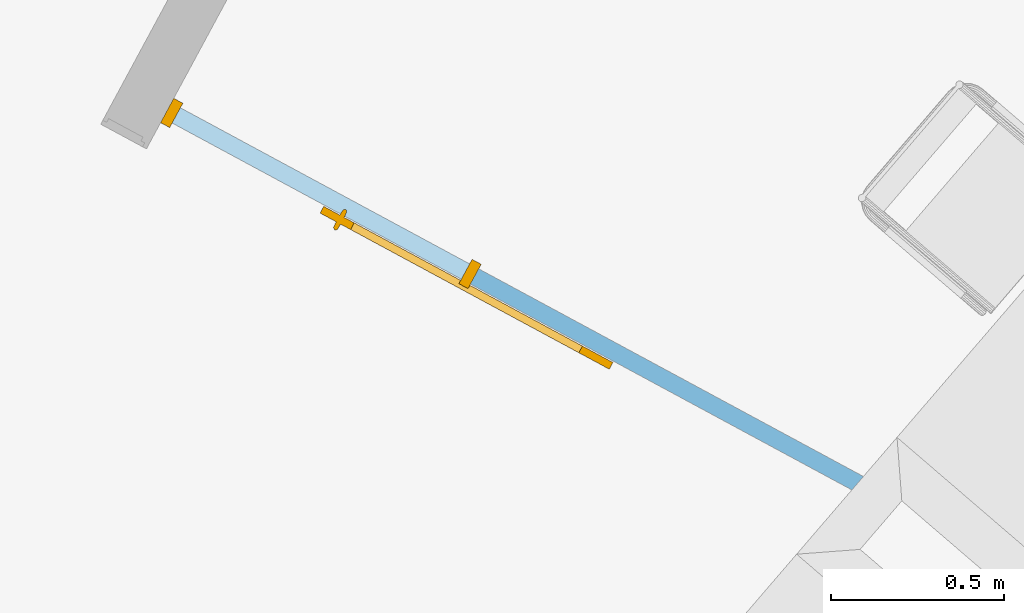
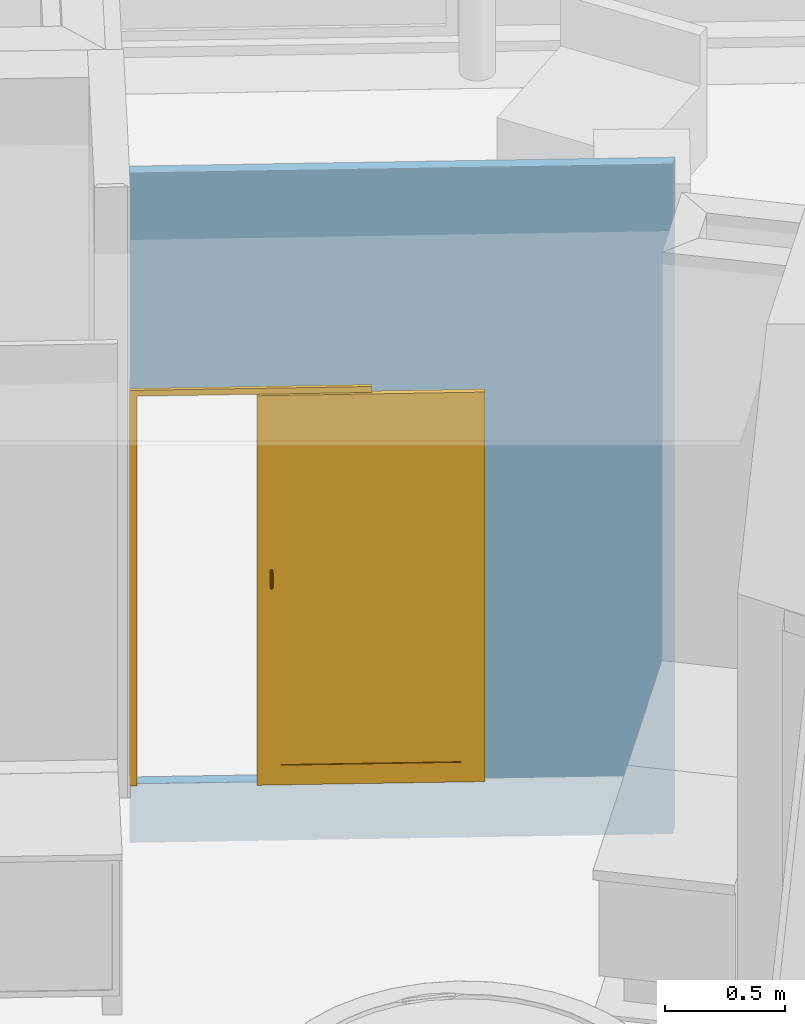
# One storey, part 9 of 41: 1 door, 1 opening, plus 1 element that does not belong to this part.
"""IFC2X3 building model written with IfcOpenShell, lengths in metres."""

from ifc_helpers import new_model, entity, si_unit, converted_unit, derived_unit, money_unit, direction, frame, origin_with_axes, place, context, subcontext, project, spatial, polyline, outline, extrude, open_shell, faceted_brep, surface_model, material, layer, layer_set, layer_usage, type_object, element, fill, save


model = new_model("IFC2X3")

# Units and contexts
model_context = context("Model", 3, precision=1e-05, world=origin_with_axes(), true_north=direction((0.0, 1.0)))
body_context = subcontext(model_context, "Body", "Model", "MODEL_VIEW")
ifc_project = project(units=[si_unit("LENGTHUNIT", "METRE"), si_unit("AREAUNIT", "SQUARE_METRE"), si_unit("VOLUMEUNIT", "CUBIC_METRE"), converted_unit("PLANEANGLEUNIT", "DEGREE", entity("IfcPlaneAngleMeasure", 0.0174532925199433), si_unit("PLANEANGLEUNIT", "RADIAN"), dimensions=[0, 0, 0, 0, 0, 0, 0]), money_unit("EUR"), converted_unit("TIMEUNIT", "Year", entity("IfcTimeMeasure", 31556926.0), si_unit("TIMEUNIT", "SECOND"), dimensions=[0, 0, 1, 0, 0, 0, 0]), si_unit("MASSUNIT", "GRAM", prefix="KILO"), si_unit("THERMODYNAMICTEMPERATUREUNIT", "DEGREE_CELSIUS"), si_unit("LUMINOUSINTENSITYUNIT", "LUMEN"), si_unit("ENERGYUNIT", "JOULE", prefix="MEGA"), derived_unit("THERMALCONDUCTANCEUNIT", [(si_unit("POWERUNIT", "WATT"), 1), (si_unit("LENGTHUNIT", "METRE"), -1), (si_unit("THERMODYNAMICTEMPERATUREUNIT", "KELVIN"), -1)]), derived_unit("SPECIFICHEATCAPACITYUNIT", [(si_unit("ENERGYUNIT", "JOULE"), 1), (si_unit("MASSUNIT", "GRAM", prefix="KILO"), -1), (si_unit("THERMODYNAMICTEMPERATUREUNIT", "KELVIN"), -1)]), derived_unit("MASSDENSITYUNIT", [(si_unit("MASSUNIT", "GRAM", prefix="KILO"), 1), (si_unit("VOLUMEUNIT", "CUBIC_METRE"), -1)])], contexts=[model_context])

# Site, building, storey
site_placement = place(None, frame((-3.949935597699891, 1.740105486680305, 0.0), z_axis=(0.0, 0.0, 1.0), x_axis=(0.8799804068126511, -0.475009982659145, 0.0)))
site = spatial("IfcSite", under=ifc_project, at=site_placement, Name="Gelände", CompositionType="ELEMENT")
building_placement = place(site_placement, origin_with_axes())
building = spatial("IfcBuilding", under=site, at=building_placement, Name="Gebäude", CompositionType="ELEMENT")
storey_placement = place(building_placement, frame((0.0, 0.0, 4.55), z_axis=(0.0, 0.0, 1.0), x_axis=(1.0, 0.0, 0.0)))
storey = spatial("IfcBuildingStorey", under=building, at=storey_placement, Name="Staffelgeschoss", CompositionType="ELEMENT", Elevation=4.55)

# Wall, opening, door
ifc_material = material(Name="ALLGEMEIN - BAUTEIL")
ifc_layer = layer(ifc_material, 0.05, ventilated="UNKNOWN")
ifc_layer_set = layer_set([ifc_layer], Name="ALLGEMEIN - BAUTEIL 0.05")
ifc_layer_usage = layer_usage(ifc_layer_set, "AXIS2", "NEGATIVE", 0.0)
wall_type = type_object("IfcWallType", Name="ALLGEMEIN - BAUTEIL 50", PredefinedType="NOTDEFINED")
wall_placement = place(storey_placement, frame((26.00538265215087, 5.653154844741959, -0.2999999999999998), z_axis=(0.0, 0.0, 1.0), x_axis=(-0.9999999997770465, -2.111651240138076e-05, 0.0)))
wall = element("IfcWallStandardCase", 1, at=wall_placement, inside=storey, type_object=wall_type, material=ifc_layer_usage, Name="I-Wand035", ObjectType="NOTDEFINED", context=body_context, shape_type="SweptSolid", body=[
    extrude(outline(polyline([(-0.01092152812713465, -0.04999999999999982), (2.262848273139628, -0.04999999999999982), (2.262849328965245, 0.0), (0.0, 0.0), (-0.01092152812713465, -0.04999999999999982)])), origin_with_axes(), (0.0, 0.0, 1.0), 3.404999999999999),
])
opening_placement = place(wall_placement, frame((1.757847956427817, 0.0, 0.2999999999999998), z_axis=(0.0, 0.0, 1.0), x_axis=(1.0, 0.0, 0.0)))
opening = element("IfcOpeningElement", 2, at=opening_placement, cuts=wall, Name="I-Wand057", context=body_context, shape_type="Brep", body=[
    faceted_brep([(-0.504999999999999, 0.001047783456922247, 1.98), (-0.504999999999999, 0.0, 1.98), (-0.504999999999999, 0.0, 0.0), (-0.5049999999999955, -0.05104778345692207, 0.0), (-0.5049999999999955, -0.05104778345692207, 2.01), (-0.504999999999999, 0.001047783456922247, 2.01), (-0.5049999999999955, 0.03000000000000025, 1.98), (-1.514999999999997, 0.03000000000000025, 1.98), (-1.514999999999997, 0.0, 1.98), (-1.514999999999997, 0.0, 0.0), (-0.504999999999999, 0.001047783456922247, 0.0), (0.5050000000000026, 0.001047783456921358, 0.0), (0.5050000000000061, -0.05104778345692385, 0.0), (0.5050000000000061, -0.05104778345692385, 2.01), (0.5050000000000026, 0.001047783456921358, 2.01), (-0.5049999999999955, 0.03000000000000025, 0.0), (-1.514999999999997, 0.03000000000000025, 0.0)], [[[0, 1, 2, 3, 4, 5]], [[1, 0, 6, 7, 8]], [[2, 1, 8, 9]], [[2, 10, 11, 12, 3]], [[3, 12, 13, 4]], [[4, 13, 14, 5]], [[10, 0, 5, 14, 11]], [[0, 10, 15, 6]], [[7, 6, 15, 16]], [[8, 7, 16, 9]], [[10, 2, 9, 16, 15]], [[13, 12, 11, 14]]]),
])
door_style = type_object("IfcDoorStyle", Name="Schiebetür 02 1 22", ConstructionType="NOTDEFINED", OperationType="SLIDING_TO_LEFT", ParameterTakesPrecedence=False, Sizeable=False)
door_placement = place(opening_placement, frame((0.5050000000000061, 0.0, 0.0), z_axis=(0.0, 0.0, 1.0), x_axis=(-1.0, 0.0, 0.0)))
door = element("IfcDoor", 3, at=door_placement, inside=storey, type_object=door_style, Name="I-Wand057", ObjectType="DOOR", OverallHeight=2.01, OverallWidth=1.01, context=body_context, shape_type="SurfaceModel", body=[
    faceted_brep([(1.010000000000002, 0.0649999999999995, 0.0), (1.010000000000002, 0.04999999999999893, 0.0), (0.980000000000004, 0.04999999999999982, 0.0), (0.9800000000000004, 0.0649999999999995, 0.0), (1.010000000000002, 0.0649999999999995, 2.01), (1.010000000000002, 0.04999999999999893, 2.01), (0.0, 0.05000000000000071, 2.01), (0.0, 0.05000000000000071, 0.0), (0.03000000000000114, 0.05000000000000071, 0.0), (0.03000000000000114, 0.05000000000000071, 1.98), (0.980000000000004, 0.04999999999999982, 1.98), (0.9800000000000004, 0.0649999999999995, 1.98), (0.03000000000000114, 0.0649999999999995, 1.98), (0.03000000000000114, 0.0649999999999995, 0.0), (0.0, 0.06500000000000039, 0.0), (0.0, 0.06500000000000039, 2.01)], [[[0, 1, 2, 3]], [[4, 5, 1, 0]], [[1, 5, 6, 7, 8, 9, 10, 2]], [[3, 2, 10, 11]], [[0, 3, 11, 12, 13, 14, 15, 4]], [[15, 6, 5, 4]], [[14, 7, 6, 15]], [[13, 8, 7, 14]], [[12, 9, 8, 13]], [[11, 10, 9, 12]]]),
    faceted_brep([(1.010000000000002, 0.04999999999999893, 0.0), (1.010000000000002, 0.0, 0.0), (0.9799999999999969, 0.0, 0.0), (0.980000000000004, 0.04999999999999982, 0.0), (1.010000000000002, 0.04999999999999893, 2.01), (1.010000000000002, 0.0, 2.01), (0.0, 0.0, 2.01), (0.0, 0.0, 0.0), (0.03000000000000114, 0.0, 0.0), (0.03000000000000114, 0.0, 1.98), (0.9799999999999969, 0.0, 1.98), (0.980000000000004, 0.04999999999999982, 1.98), (0.03000000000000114, 0.05000000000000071, 1.98), (0.03000000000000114, 0.05000000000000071, 0.0), (0.0, 0.05000000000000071, 0.0), (0.0, 0.05000000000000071, 2.01)], [[[0, 1, 2, 3]], [[4, 5, 1, 0]], [[1, 5, 6, 7, 8, 9, 10, 2]], [[3, 2, 10, 11]], [[0, 3, 11, 12, 13, 14, 15, 4]], [[15, 6, 5, 4]], [[14, 7, 6, 15]], [[13, 8, 7, 14]], [[12, 9, 8, 13]], [[11, 10, 9, 12]]]),
    faceted_brep([(1.010000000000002, 0.0, 0.0), (1.010000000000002, -0.01500000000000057, 0.0), (0.9800000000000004, -0.01500000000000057, 0.0), (0.9799999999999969, 0.0, 0.0), (1.010000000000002, 0.0, 2.01), (1.010000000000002, -0.01500000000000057, 2.01), (0.0, -0.01499999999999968, 2.01), (0.0, -0.01499999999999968, 0.0), (0.03000000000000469, -0.01499999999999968, 0.0), (0.03000000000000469, -0.01499999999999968, 1.98), (0.9800000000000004, -0.01500000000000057, 1.98), (0.9799999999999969, 0.0, 1.98), (0.03000000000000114, 0.0, 1.98), (0.03000000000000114, 0.0, 0.0), (0.0, 0.0, 0.0), (0.0, 0.0, 2.01)], [[[0, 1, 2, 3]], [[4, 5, 1, 0]], [[1, 5, 6, 7, 8, 9, 10, 2]], [[3, 2, 10, 11]], [[0, 3, 11, 12, 13, 14, 15, 4]], [[15, 6, 5, 4]], [[14, 7, 6, 15]], [[13, 8, 7, 14]], [[12, 9, 8, 13]], [[11, 10, 9, 12]]]),
    faceted_brep([(1.479949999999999, -0.004000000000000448, 0.09999999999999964), (1.479950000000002, -0.0259999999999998, 0.09999999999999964), (1.379950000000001, -0.02600000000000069, 0.09999999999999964), (1.379949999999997, -0.004000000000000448, 0.09999999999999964), (1.479949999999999, -0.004000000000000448, 1.8799), (1.479950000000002, -0.0259999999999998, 1.8799), (1.379950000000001, -0.02600000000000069, 1.8799), (1.379949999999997, -0.004000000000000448, 1.8799)], [[[0, 1, 2, 3]], [[4, 5, 1, 0]], [[1, 5, 6, 2]], [[3, 2, 6, 7]], [[0, 3, 7, 4]], [[7, 6, 5, 4]]]),
    faceted_brep([(0.5300499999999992, -0.004000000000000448, 1.8799), (0.5300499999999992, -0.0259999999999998, 1.8799), (0.6300500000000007, -0.02600000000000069, 1.8799), (0.6300500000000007, -0.003999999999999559, 1.8799), (0.5300499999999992, -0.004000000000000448, 0.09999999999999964), (0.5300499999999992, -0.0259999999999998, 0.09999999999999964), (0.6300500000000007, -0.02600000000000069, 0.09999999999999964), (0.6300500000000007, -0.003999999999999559, 0.09999999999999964)], [[[0, 1, 2, 3]], [[4, 5, 1, 0]], [[1, 5, 6, 2]], [[3, 2, 6, 7]], [[0, 3, 7, 4]], [[7, 6, 5, 4]]]),
    faceted_brep([(0.5300499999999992, -0.004000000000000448, 0.0), (0.5300499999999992, -0.0259999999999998, 0.0), (0.5300499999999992, -0.0259999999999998, 0.09999999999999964), (0.5300499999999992, -0.004000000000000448, 0.09999999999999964), (1.479949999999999, -0.004000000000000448, 0.0), (1.479950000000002, -0.0259999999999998, 0.0), (1.479950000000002, -0.0259999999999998, 0.09999999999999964), (1.379950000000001, -0.02600000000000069, 0.09999999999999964), (0.6300500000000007, -0.02600000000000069, 0.09999999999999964), (0.6300500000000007, -0.003999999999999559, 0.09999999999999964), (1.379949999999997, -0.004000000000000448, 0.09999999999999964), (1.479949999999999, -0.004000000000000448, 0.09999999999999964)], [[[0, 1, 2, 3]], [[4, 5, 1, 0]], [[1, 5, 6, 7, 8, 2]], [[3, 2, 8, 9]], [[0, 3, 9, 10, 11, 4]], [[11, 6, 5, 4]], [[10, 7, 6, 11]], [[9, 8, 7, 10]]]),
    faceted_brep([(1.479949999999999, -0.004000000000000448, 1.9799), (1.479950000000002, -0.0259999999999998, 1.9799), (1.479950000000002, -0.0259999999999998, 1.8799), (1.479949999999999, -0.004000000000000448, 1.8799), (0.5300499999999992, -0.004000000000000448, 1.9799), (0.5300499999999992, -0.0259999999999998, 1.9799), (0.5300499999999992, -0.0259999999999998, 1.8799), (0.6300500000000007, -0.02600000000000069, 1.8799), (1.379950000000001, -0.02600000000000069, 1.8799), (1.379949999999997, -0.004000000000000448, 1.8799), (0.6300500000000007, -0.003999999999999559, 1.8799), (0.5300499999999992, -0.004000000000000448, 1.8799)], [[[0, 1, 2, 3]], [[4, 5, 1, 0]], [[1, 5, 6, 7, 8, 2]], [[3, 2, 8, 9]], [[0, 3, 9, 10, 11, 4]], [[11, 6, 5, 4]], [[10, 7, 6, 11]], [[9, 8, 7, 10]]]),
    surface_model("IfcShellBasedSurfaceModel", [(1.379950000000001, -0.009000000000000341, 0.09999999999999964), (0.6300500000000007, -0.008999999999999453, 0.09999999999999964), (0.6300500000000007, -0.008999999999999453, 1.8799), (1.379950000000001, -0.009000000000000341, 1.8799)], [open_shell([[[0, 1, 2, 3]]])]),
    surface_model("IfcShellBasedSurfaceModel", [(1.379950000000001, -0.0210000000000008, 0.09999999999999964), (1.379950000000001, -0.0210000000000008, 1.8799), (0.6300500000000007, -0.0210000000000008, 1.8799), (0.6300500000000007, -0.0210000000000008, 0.09999999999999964)], [open_shell([[[0, 1, 2, 3]]])]),
    faceted_brep([(0.5970499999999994, -0.04099999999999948, 1.085980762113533), (0.597050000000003, -0.02600000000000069, 1.09), (0.5961121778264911, -0.02600000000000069, 1.0935), (0.5961121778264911, -0.04274999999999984, 1.089011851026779), (0.5961121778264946, -0.03925000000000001, 1.082949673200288), (0.5961121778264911, -0.02600000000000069, 1.0865), (0.5935499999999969, -0.02600000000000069, 1.083937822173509), (0.590049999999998, -0.0259999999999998, 1.083), (0.5865500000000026, -0.02600000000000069, 1.083937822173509), (0.5839878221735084, -0.02600000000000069, 1.0865), (0.5830500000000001, -0.0259999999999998, 1.09), (0.5839878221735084, -0.02600000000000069, 1.0935), (0.5865500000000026, -0.02600000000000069, 1.096062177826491), (0.590049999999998, -0.0259999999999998, 1.097), (0.5935499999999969, -0.02600000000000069, 1.096062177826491), (0.5935500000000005, -0.04403108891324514, 1.091230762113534), (0.597050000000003, -0.05198076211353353, 1.075), (0.5961121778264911, -0.0550118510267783, 1.07675), (0.5935500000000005, -0.03796891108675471, 1.080730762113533), (0.5961121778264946, -0.04894967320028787, 1.07325), (0.5900500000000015, -0.03750000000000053, 1.079918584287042), (0.5865500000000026, -0.03796891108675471, 1.080730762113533), (0.583987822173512, -0.03925000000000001, 1.082949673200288), (0.5830500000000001, -0.04100000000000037, 1.085980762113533), (0.5839878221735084, -0.04275000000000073, 1.089011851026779), (0.5865500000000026, -0.04403108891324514, 1.091230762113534), (0.590049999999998, -0.04450000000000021, 1.092042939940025), (0.5935500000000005, -0.05723076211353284, 1.078031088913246), (0.597050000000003, -0.05600000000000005, 1.06), (0.5961121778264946, -0.05949999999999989, 1.06), (0.5935500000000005, -0.04673076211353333, 1.071968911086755), (0.5961121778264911, -0.05249999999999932, 1.06), (0.5900500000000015, -0.04591858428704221, 1.0715), (0.586549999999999, -0.04673076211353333, 1.071968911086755), (0.5839878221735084, -0.04894967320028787, 1.07325), (0.5830499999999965, -0.05198076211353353, 1.075), (0.5839878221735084, -0.05501185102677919, 1.07675), (0.5865500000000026, -0.05723076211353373, 1.078031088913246), (0.590049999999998, -0.05804293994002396, 1.0785), (0.5935500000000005, -0.06206217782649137, 1.06), (0.590049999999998, -0.06300000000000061, 1.06), (0.5865500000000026, -0.06206217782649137, 1.06), (0.5839878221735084, -0.05949999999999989, 1.06), (0.5830500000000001, -0.05600000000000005, 1.06), (0.5839878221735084, -0.05250000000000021, 1.06), (0.5865500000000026, -0.04993782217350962, 1.06), (0.5900500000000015, -0.04899999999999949, 1.06), (0.5935499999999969, -0.04993782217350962, 1.06)], [[[0, 1, 2, 3]], [[4, 5, 1, 0]], [[1, 5, 6, 7, 8, 9, 10, 11, 12, 13, 14, 2]], [[3, 2, 14, 15]], [[16, 0, 3, 17]], [[18, 6, 5, 4]], [[19, 4, 0, 16]], [[20, 7, 6, 18]], [[21, 8, 7, 20]], [[22, 9, 8, 21]], [[23, 10, 9, 22]], [[24, 11, 10, 23]], [[25, 12, 11, 24]], [[26, 13, 12, 25]], [[15, 14, 13, 26]], [[17, 3, 15, 27]], [[28, 16, 17, 29]], [[30, 18, 4, 19]], [[31, 19, 16, 28]], [[32, 20, 18, 30]], [[33, 21, 20, 32]], [[34, 22, 21, 33]], [[35, 23, 22, 34]], [[36, 24, 23, 35]], [[37, 25, 24, 36]], [[38, 26, 25, 37]], [[27, 15, 26, 38]], [[29, 17, 27, 39]], [[28, 29, 39, 40, 41, 42, 43, 44, 45, 46, 47, 31]], [[47, 30, 19, 31]], [[46, 32, 30, 47]], [[45, 33, 32, 46]], [[44, 34, 33, 45]], [[43, 35, 34, 44]], [[42, 36, 35, 43]], [[41, 37, 36, 42]], [[40, 38, 37, 41]], [[39, 27, 38, 40]]]),
    faceted_brep([(0.5830500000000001, -0.04100000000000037, 1.014019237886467), (0.5830500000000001, -0.0259999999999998, 1.01), (0.5839878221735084, -0.02600000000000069, 1.0065), (0.5839878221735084, -0.04275000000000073, 1.010988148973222), (0.583987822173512, -0.03925000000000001, 1.017050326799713), (0.5839878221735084, -0.02600000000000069, 1.0135), (0.5865500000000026, -0.02600000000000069, 1.016062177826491), (0.590049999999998, -0.0259999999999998, 1.017), (0.5935499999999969, -0.02600000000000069, 1.016062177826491), (0.5961121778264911, -0.02600000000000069, 1.0135), (0.597050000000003, -0.02600000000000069, 1.01), (0.5961121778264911, -0.02600000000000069, 1.0065), (0.5935499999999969, -0.02600000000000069, 1.003937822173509), (0.590049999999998, -0.0259999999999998, 1.003), (0.5865500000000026, -0.02600000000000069, 1.003937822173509), (0.5865500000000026, -0.04403108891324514, 1.008769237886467), (0.5830499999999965, -0.05198076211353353, 1.025), (0.5839878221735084, -0.05501185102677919, 1.02325), (0.5865500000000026, -0.03796891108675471, 1.019269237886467), (0.5839878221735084, -0.04894967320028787, 1.02675), (0.5900500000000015, -0.03750000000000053, 1.020081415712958), (0.5935500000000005, -0.03796891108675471, 1.019269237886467), (0.5961121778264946, -0.03925000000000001, 1.017050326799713), (0.5970499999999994, -0.04099999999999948, 1.014019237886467), (0.5961121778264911, -0.04274999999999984, 1.010988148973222), (0.5935500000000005, -0.04403108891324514, 1.008769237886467), (0.590049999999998, -0.04450000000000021, 1.007957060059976), (0.5865500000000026, -0.05723076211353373, 1.021968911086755), (0.5830500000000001, -0.05600000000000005, 1.04), (0.5839878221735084, -0.05949999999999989, 1.04), (0.586549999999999, -0.04673076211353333, 1.028031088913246), (0.5839878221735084, -0.05250000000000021, 1.04), (0.5900500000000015, -0.04591858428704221, 1.0285), (0.5935500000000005, -0.04673076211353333, 1.028031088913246), (0.5961121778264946, -0.04894967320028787, 1.02675), (0.597050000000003, -0.05198076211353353, 1.025), (0.5961121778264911, -0.0550118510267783, 1.02325), (0.5935500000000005, -0.05723076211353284, 1.021968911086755), (0.590049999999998, -0.05804293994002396, 1.021500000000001), (0.5865500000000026, -0.06206217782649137, 1.04), (0.590049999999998, -0.06300000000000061, 1.04), (0.5935500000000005, -0.06206217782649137, 1.04), (0.5961121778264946, -0.05949999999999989, 1.04), (0.597050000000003, -0.05600000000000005, 1.04), (0.5961121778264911, -0.05249999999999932, 1.04), (0.5935499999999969, -0.04993782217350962, 1.04), (0.5900500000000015, -0.04899999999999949, 1.04), (0.5865500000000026, -0.04993782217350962, 1.04)], [[[0, 1, 2, 3]], [[4, 5, 1, 0]], [[1, 5, 6, 7, 8, 9, 10, 11, 12, 13, 14, 2]], [[3, 2, 14, 15]], [[16, 0, 3, 17]], [[18, 6, 5, 4]], [[19, 4, 0, 16]], [[20, 7, 6, 18]], [[21, 8, 7, 20]], [[22, 9, 8, 21]], [[23, 10, 9, 22]], [[24, 11, 10, 23]], [[25, 12, 11, 24]], [[26, 13, 12, 25]], [[15, 14, 13, 26]], [[17, 3, 15, 27]], [[28, 16, 17, 29]], [[30, 18, 4, 19]], [[31, 19, 16, 28]], [[32, 20, 18, 30]], [[33, 21, 20, 32]], [[34, 22, 21, 33]], [[35, 23, 22, 34]], [[36, 24, 23, 35]], [[37, 25, 24, 36]], [[38, 26, 25, 37]], [[27, 15, 26, 38]], [[29, 17, 27, 39]], [[28, 29, 39, 40, 41, 42, 43, 44, 45, 46, 47, 31]], [[47, 30, 19, 31]], [[46, 32, 30, 47]], [[45, 33, 32, 46]], [[44, 34, 33, 45]], [[43, 35, 34, 44]], [[42, 36, 35, 43]], [[41, 37, 36, 42]], [[40, 38, 37, 41]], [[39, 27, 38, 40]]]),
    faceted_brep([(0.597050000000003, -0.05600000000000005, 1.04), (0.5961121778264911, -0.05249999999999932, 1.04), (0.5961121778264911, -0.05249999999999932, 1.06), (0.597050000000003, -0.05600000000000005, 1.06), (0.5961121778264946, -0.05949999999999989, 1.04), (0.5935500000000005, -0.06206217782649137, 1.04), (0.590049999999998, -0.06300000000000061, 1.04), (0.5865500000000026, -0.06206217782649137, 1.04), (0.5839878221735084, -0.05949999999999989, 1.04), (0.5830500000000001, -0.05600000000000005, 1.04), (0.5839878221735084, -0.05250000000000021, 1.04), (0.5865500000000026, -0.04993782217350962, 1.04), (0.5900500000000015, -0.04899999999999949, 1.04), (0.5935499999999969, -0.04993782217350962, 1.04), (0.5935499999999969, -0.04993782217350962, 1.06), (0.5900500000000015, -0.04899999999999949, 1.06), (0.5865500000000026, -0.04993782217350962, 1.06), (0.5839878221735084, -0.05250000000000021, 1.06), (0.5830500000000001, -0.05600000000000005, 1.06), (0.5839878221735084, -0.05949999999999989, 1.06), (0.5865500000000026, -0.06206217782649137, 1.06), (0.590049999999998, -0.06300000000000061, 1.06), (0.5935500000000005, -0.06206217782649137, 1.06), (0.5961121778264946, -0.05949999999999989, 1.06)], [[[0, 1, 2, 3]], [[0, 4, 5, 6, 7, 8, 9, 10, 11, 12, 13, 1]], [[1, 13, 14, 2]], [[3, 2, 14, 15, 16, 17, 18, 19, 20, 21, 22, 23]], [[4, 0, 3, 23]], [[5, 4, 23, 22]], [[6, 5, 22, 21]], [[7, 6, 21, 20]], [[8, 7, 20, 19]], [[9, 8, 19, 18]], [[10, 9, 18, 17]], [[11, 10, 17, 16]], [[12, 11, 16, 15]], [[13, 12, 15, 14]]]),
    faceted_brep([(0.597050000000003, 0.01100000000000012, 1.085980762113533), (0.5961121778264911, 0.01274999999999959, 1.089011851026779), (0.5961121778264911, -0.003999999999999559, 1.0935), (0.5970499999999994, -0.004000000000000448, 1.09), (0.5970499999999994, 0.02198076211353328, 1.075), (0.5961121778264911, 0.02501185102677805, 1.07675), (0.5935499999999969, 0.01403108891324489, 1.091230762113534), (0.5935500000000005, -0.004000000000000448, 1.096062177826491), (0.5900500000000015, -0.003999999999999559, 1.097), (0.586549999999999, -0.004000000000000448, 1.096062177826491), (0.583987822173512, -0.004000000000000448, 1.0935), (0.5830500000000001, -0.004000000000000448, 1.09), (0.583987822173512, -0.004000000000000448, 1.0865), (0.586549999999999, -0.004000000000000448, 1.083937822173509), (0.5900500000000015, -0.003999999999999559, 1.083), (0.5935500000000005, -0.004000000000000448, 1.083937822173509), (0.5961121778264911, -0.003999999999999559, 1.0865), (0.5961121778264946, 0.009249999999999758, 1.082949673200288), (0.5970499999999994, 0.0259999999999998, 1.06), (0.5961121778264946, 0.02949999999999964, 1.06), (0.593550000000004, 0.02723076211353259, 1.078031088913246), (0.5961121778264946, 0.01894967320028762, 1.07325), (0.5900500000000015, 0.01449999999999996, 1.092042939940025), (0.5865500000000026, 0.01403108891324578, 1.091230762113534), (0.5839878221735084, 0.01274999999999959, 1.089011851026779), (0.5830500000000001, 0.01100000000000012, 1.085980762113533), (0.583987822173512, 0.009250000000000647, 1.082949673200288), (0.5865500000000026, 0.007968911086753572, 1.080730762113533), (0.5900500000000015, 0.007499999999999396, 1.079918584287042), (0.5935500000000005, 0.007968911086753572, 1.080730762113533), (0.5961121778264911, 0.02249999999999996, 1.06), (0.5935499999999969, 0.01993782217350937, 1.06), (0.5900500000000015, 0.01900000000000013, 1.06), (0.5865500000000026, 0.01993782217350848, 1.06), (0.5839878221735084, 0.02249999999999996, 1.06), (0.5830500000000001, 0.02599999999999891, 1.06), (0.583987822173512, 0.02950000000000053, 1.06), (0.5865500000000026, 0.03206217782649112, 1.06), (0.590049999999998, 0.03299999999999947, 1.06), (0.593550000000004, 0.03206217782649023, 1.06), (0.590049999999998, 0.02804293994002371, 1.0785), (0.5935499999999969, 0.01673076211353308, 1.071968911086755), (0.5865500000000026, 0.02723076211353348, 1.078031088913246), (0.583987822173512, 0.02501185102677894, 1.07675), (0.5830500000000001, 0.02198076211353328, 1.075), (0.583987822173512, 0.01894967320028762, 1.07325), (0.5865500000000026, 0.01673076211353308, 1.071968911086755), (0.5900500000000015, 0.01591858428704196, 1.0715)], [[[0, 1, 2, 3]], [[4, 5, 1, 0]], [[1, 6, 7, 2]], [[3, 2, 7, 8, 9, 10, 11, 12, 13, 14, 15, 16]], [[17, 0, 3, 16]], [[18, 19, 5, 4]], [[5, 20, 6, 1]], [[21, 4, 0, 17]], [[6, 22, 8, 7]], [[22, 23, 9, 8]], [[23, 24, 10, 9]], [[24, 25, 11, 10]], [[25, 26, 12, 11]], [[26, 27, 13, 12]], [[27, 28, 14, 13]], [[28, 29, 15, 14]], [[29, 17, 16, 15]], [[18, 30, 31, 32, 33, 34, 35, 36, 37, 38, 39, 19]], [[19, 39, 20, 5]], [[30, 18, 4, 21]], [[20, 40, 22, 6]], [[41, 21, 17, 29]], [[40, 42, 23, 22]], [[42, 43, 24, 23]], [[43, 44, 25, 24]], [[44, 45, 26, 25]], [[45, 46, 27, 26]], [[46, 47, 28, 27]], [[47, 41, 29, 28]], [[31, 30, 21, 41]], [[32, 31, 41, 47]], [[33, 32, 47, 46]], [[34, 33, 46, 45]], [[35, 34, 45, 44]], [[36, 35, 44, 43]], [[37, 36, 43, 42]], [[38, 37, 42, 40]], [[39, 38, 40, 20]]]),
    faceted_brep([(0.5830500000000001, 0.01100000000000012, 1.014019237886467), (0.5839878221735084, 0.01274999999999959, 1.010988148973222), (0.583987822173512, -0.004000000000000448, 1.0065), (0.5830500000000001, -0.004000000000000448, 1.01), (0.5830500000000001, 0.02198076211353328, 1.025), (0.583987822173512, 0.02501185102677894, 1.02325), (0.5865500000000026, 0.01403108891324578, 1.008769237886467), (0.586549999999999, -0.004000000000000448, 1.003937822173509), (0.5900500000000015, -0.003999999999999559, 1.003), (0.5935500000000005, -0.004000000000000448, 1.003937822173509), (0.5961121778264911, -0.003999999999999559, 1.0065), (0.5970499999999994, -0.004000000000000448, 1.01), (0.5961121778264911, -0.003999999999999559, 1.0135), (0.5935500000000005, -0.004000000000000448, 1.016062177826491), (0.5900500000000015, -0.003999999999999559, 1.017), (0.586549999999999, -0.004000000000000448, 1.016062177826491), (0.583987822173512, -0.004000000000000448, 1.0135), (0.583987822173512, 0.009250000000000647, 1.017050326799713), (0.5830500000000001, 0.02599999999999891, 1.04), (0.583987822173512, 0.02950000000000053, 1.04), (0.5865500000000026, 0.02723076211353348, 1.021968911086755), (0.583987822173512, 0.01894967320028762, 1.02675), (0.5900500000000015, 0.01449999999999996, 1.007957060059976), (0.5935499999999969, 0.01403108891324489, 1.008769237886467), (0.5961121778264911, 0.01274999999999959, 1.010988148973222), (0.597050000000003, 0.01100000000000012, 1.014019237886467), (0.5961121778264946, 0.009249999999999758, 1.017050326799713), (0.5935500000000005, 0.00796891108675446, 1.019269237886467), (0.5900500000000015, 0.007499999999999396, 1.020081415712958), (0.5865500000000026, 0.007968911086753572, 1.019269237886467), (0.5839878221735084, 0.02249999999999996, 1.04), (0.5865500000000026, 0.01993782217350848, 1.04), (0.5900500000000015, 0.01900000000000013, 1.04), (0.5935499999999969, 0.01993782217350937, 1.04), (0.5961121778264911, 0.02249999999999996, 1.04), (0.5970499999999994, 0.0259999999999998, 1.04), (0.5961121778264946, 0.02949999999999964, 1.04), (0.593550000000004, 0.03206217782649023, 1.04), (0.590049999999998, 0.03299999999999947, 1.04), (0.5865500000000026, 0.03206217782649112, 1.04), (0.590049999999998, 0.02804293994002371, 1.021500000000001), (0.5865500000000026, 0.01673076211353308, 1.028031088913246), (0.593550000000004, 0.02723076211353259, 1.021968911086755), (0.5961121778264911, 0.02501185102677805, 1.02325), (0.5970499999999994, 0.02198076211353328, 1.025), (0.5961121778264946, 0.01894967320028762, 1.02675), (0.5935499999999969, 0.01673076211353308, 1.028031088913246), (0.5900500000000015, 0.01591858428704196, 1.0285)], [[[0, 1, 2, 3]], [[4, 5, 1, 0]], [[1, 6, 7, 2]], [[3, 2, 7, 8, 9, 10, 11, 12, 13, 14, 15, 16]], [[17, 0, 3, 16]], [[18, 19, 5, 4]], [[5, 20, 6, 1]], [[21, 4, 0, 17]], [[6, 22, 8, 7]], [[22, 23, 9, 8]], [[23, 24, 10, 9]], [[24, 25, 11, 10]], [[25, 26, 12, 11]], [[26, 27, 13, 12]], [[27, 28, 14, 13]], [[28, 29, 15, 14]], [[29, 17, 16, 15]], [[18, 30, 31, 32, 33, 34, 35, 36, 37, 38, 39, 19]], [[19, 39, 20, 5]], [[30, 18, 4, 21]], [[20, 40, 22, 6]], [[41, 21, 17, 29]], [[40, 42, 23, 22]], [[42, 43, 24, 23]], [[43, 44, 25, 24]], [[44, 45, 26, 25]], [[45, 46, 27, 26]], [[46, 47, 28, 27]], [[47, 41, 29, 28]], [[31, 30, 21, 41]], [[32, 31, 41, 47]], [[33, 32, 47, 46]], [[34, 33, 46, 45]], [[35, 34, 45, 44]], [[36, 35, 44, 43]], [[37, 36, 43, 42]], [[38, 37, 42, 40]], [[39, 38, 40, 20]]]),
    faceted_brep([(0.5970499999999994, 0.0259999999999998, 1.04), (0.5970499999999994, 0.0259999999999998, 1.06), (0.5961121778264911, 0.02249999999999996, 1.06), (0.5961121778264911, 0.02249999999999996, 1.04), (0.5961121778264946, 0.02949999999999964, 1.04), (0.5961121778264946, 0.02949999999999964, 1.06), (0.593550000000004, 0.03206217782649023, 1.06), (0.590049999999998, 0.03299999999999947, 1.06), (0.5865500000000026, 0.03206217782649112, 1.06), (0.583987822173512, 0.02950000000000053, 1.06), (0.5830500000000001, 0.02599999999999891, 1.06), (0.5839878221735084, 0.02249999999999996, 1.06), (0.5865500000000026, 0.01993782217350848, 1.06), (0.5900500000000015, 0.01900000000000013, 1.06), (0.5935499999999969, 0.01993782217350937, 1.06), (0.5935499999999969, 0.01993782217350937, 1.04), (0.5900500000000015, 0.01900000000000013, 1.04), (0.5865500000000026, 0.01993782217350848, 1.04), (0.5839878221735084, 0.02249999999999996, 1.04), (0.5830500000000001, 0.02599999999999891, 1.04), (0.583987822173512, 0.02950000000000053, 1.04), (0.5865500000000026, 0.03206217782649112, 1.04), (0.590049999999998, 0.03299999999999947, 1.04), (0.593550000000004, 0.03206217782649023, 1.04)], [[[0, 1, 2, 3]], [[4, 5, 1, 0]], [[1, 5, 6, 7, 8, 9, 10, 11, 12, 13, 14, 2]], [[3, 2, 14, 15]], [[0, 3, 15, 16, 17, 18, 19, 20, 21, 22, 23, 4]], [[23, 6, 5, 4]], [[22, 7, 6, 23]], [[21, 8, 7, 22]], [[20, 9, 8, 21]], [[19, 10, 9, 20]], [[18, 11, 10, 19]], [[17, 12, 11, 18]], [[16, 13, 12, 17]], [[15, 14, 13, 16]]]),
])
fill(opening, door)

save(model, "model.ifc")
